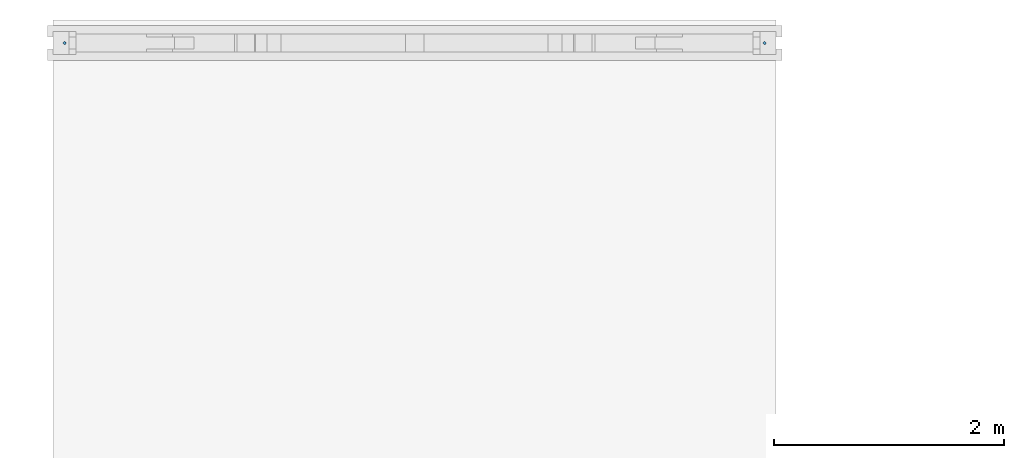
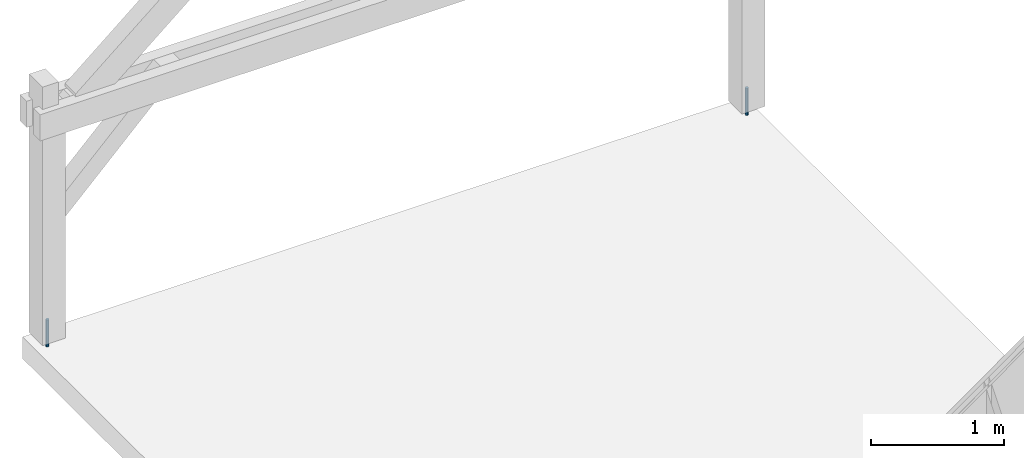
# One storey, part 2 of 34: 2 fasteners.
"""IFC2X3 building model written with IfcOpenShell, lengths in metres."""

from ifc_helpers import new_model, si_unit, direction, frame, origin_with_axes, origin_2d_with_axis, place, context, subcontext, project, spatial, circle, extrude, element, save


model = new_model("IFC2X3")

# Units and contexts
model_context = context("Model", 3, precision=1e-06, world=origin_with_axes(), true_north=direction((0.0, 1.0, 0.0)))
body_context = subcontext(model_context, "Body", "Model", "MODEL_VIEW")
ifc_project = project(units=[si_unit("LENGTHUNIT", "METRE"), si_unit("AREAUNIT", "SQUARE_METRE"), si_unit("VOLUMEUNIT", "CUBIC_METRE"), si_unit("PLANEANGLEUNIT", "RADIAN")], contexts=[model_context])

# Site, building, storey
site_placement = place(None, origin_with_axes())
site = spatial("IfcSite", under=ifc_project, at=site_placement, CompositionType="ELEMENT")
building_placement = place(site_placement, origin_with_axes())
building = spatial("IfcBuilding", under=site, at=building_placement, Name="Building 1", CompositionType="ELEMENT")
storey_placement = place(building_placement, origin_with_axes())
storey = spatial("IfcBuildingStorey", under=building, at=storey_placement, Name="Rez de chaussée", CompositionType="ELEMENT", Elevation=0.0)

# Fasteners
for number, where, z_axis, x_axis in (
    (1, (0.314, 13.0145, 0.15), (0.0, -1.0, 0.0), (0.0, 0.0, -1.0)),
    (2, (6.394, 13.0145, 0.15), (0.0, -1.0, 0.0), (0.0, 0.0, -1.0)),
):
    element("IfcFastener", number, at=place(storey_placement, frame(where, z_axis=z_axis, x_axis=x_axis)), inside=storey, Name="Chevilles", context=body_context, shape_type="SweptSolid", body=[
        extrude(circle(Radius=0.0125, at=origin_2d_with_axis()), frame((0.0, 0.0, 0.0), z_axis=(1.0, 0.0, 0.0), x_axis=(0.0, 1.0, 0.0)), (0.0, 0.0, 1.0), 0.25),
    ])

save(model, "model.ifc")
